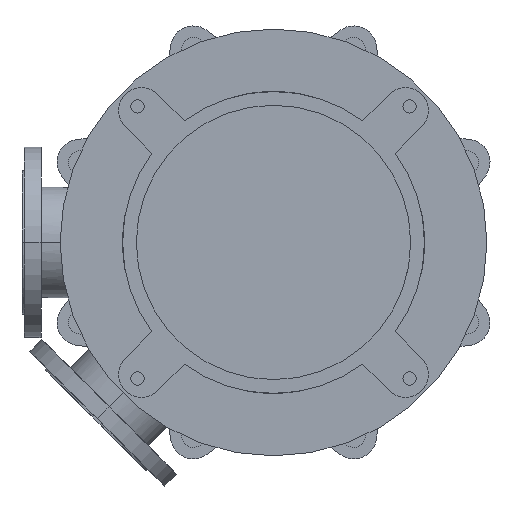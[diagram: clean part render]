
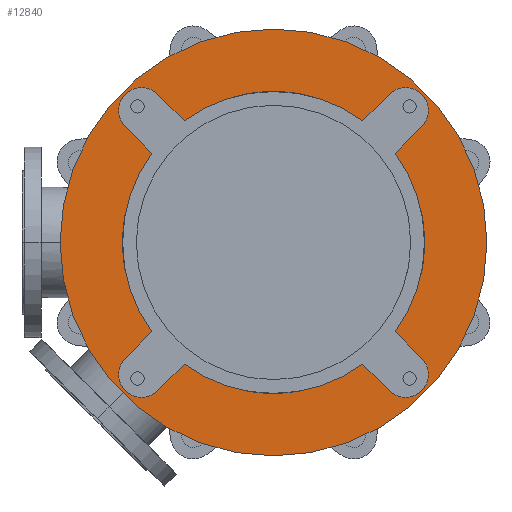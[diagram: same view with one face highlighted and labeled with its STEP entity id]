
A CAD part, front view. The second image highlights one B-rep face of the part: STEP entity #12840.
In plain terms, the highlighted planar face has unit normal (0, -1, 0).
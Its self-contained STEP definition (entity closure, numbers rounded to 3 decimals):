
#2490=CARTESIAN_POINT('',(0.,-25.,0.));
#2491=DIRECTION('',(0.,1.,0.));
#2492=DIRECTION('',(0.592,0.,-0.806));
#2493=AXIS2_PLACEMENT_3D('',#2490,#2491,#2492);
#2508=CARTESIAN_POINT('',(0.,-25.,0.));
#2509=DIRECTION('',(0.,1.,0.));
#2510=DIRECTION('',(0.806,0.,0.592));
#2511=AXIS2_PLACEMENT_3D('',#2508,#2509,#2510);
#2535=CARTESIAN_POINT('',(0.,-25.,0.));
#2536=DIRECTION('',(0.,1.,0.));
#2537=DIRECTION('',(-0.806,0.,-0.592));
#2538=AXIS2_PLACEMENT_3D('',#2535,#2536,#2537);
#2544=CARTESIAN_POINT('',(0.,-25.,0.));
#2545=DIRECTION('',(0.,1.,0.));
#2546=DIRECTION('',(-0.592,0.,0.806));
#2547=AXIS2_PLACEMENT_3D('',#2544,#2545,#2546);
#2722=CARTESIAN_POINT('',(0.,-25.,0.));
#2723=DIRECTION('',(0.,-1.,0.));
#2724=DIRECTION('',(-1.,0.,0.));
#2725=AXIS2_PLACEMENT_3D('',#2722,#2723,#2724);
#2727=CARTESIAN_POINT('',(0.,-25.,0.));
#2728=DIRECTION('',(0.,1.,0.));
#2729=DIRECTION('',(-1.,0.,0.));
#2730=AXIS2_PLACEMENT_3D('',#2727,#2728,#2729);
#2732=CARTESIAN_POINT('',(-173.241,-25.,173.241));
#2733=DIRECTION('',(0.,-1.,0.));
#2734=DIRECTION('',(0.707,0.,0.707));
#2735=AXIS2_PLACEMENT_3D('',#2732,#2733,#2734);
#2737=DIRECTION('',(0.707,0.,-0.707));
#2738=VECTOR('',#2737,49.286);
#2739=CARTESIAN_POINT('',(-194.454,-25.,152.028));
#2740=LINE('',#2739,#2738);
#2741=DIRECTION('',(-0.707,0.,-0.707));
#2742=VECTOR('',#2741,49.286);
#2743=CARTESIAN_POINT('',(-159.604,-25.,-117.178));
#2744=LINE('',#2743,#2742);
#2745=CARTESIAN_POINT('',(-173.241,-25.,-173.241));
#2746=DIRECTION('',(0.,-1.,0.));
#2747=DIRECTION('',(-0.707,0.,0.707));
#2748=AXIS2_PLACEMENT_3D('',#2745,#2746,#2747);
#2750=DIRECTION('',(0.707,0.,0.707));
#2751=VECTOR('',#2750,49.286);
#2752=CARTESIAN_POINT('',(-152.028,-25.,-194.454));
#2753=LINE('',#2752,#2751);
#2754=DIRECTION('',(0.707,0.,-0.707));
#2755=VECTOR('',#2754,49.286);
#2756=CARTESIAN_POINT('',(117.178,-25.,-159.604));
#2757=LINE('',#2756,#2755);
#2758=CARTESIAN_POINT('',(173.241,-25.,-173.241));
#2759=DIRECTION('',(0.,-1.,0.));
#2760=DIRECTION('',(-0.707,0.,-0.707));
#2761=AXIS2_PLACEMENT_3D('',#2758,#2759,#2760);
#2763=DIRECTION('',(-0.707,0.,0.707));
#2764=VECTOR('',#2763,49.286);
#2765=CARTESIAN_POINT('',(194.454,-25.,-152.028));
#2766=LINE('',#2765,#2764);
#2767=DIRECTION('',(0.707,0.,0.707));
#2768=VECTOR('',#2767,49.286);
#2769=CARTESIAN_POINT('',(159.604,-25.,117.178));
#2770=LINE('',#2769,#2768);
#2771=CARTESIAN_POINT('',(173.241,-25.,173.241));
#2772=DIRECTION('',(0.,-1.,0.));
#2773=DIRECTION('',(0.707,0.,-0.707));
#2774=AXIS2_PLACEMENT_3D('',#2771,#2772,#2773);
#2776=DIRECTION('',(-0.707,0.,-0.707));
#2777=VECTOR('',#2776,49.286);
#2778=CARTESIAN_POINT('',(152.028,-25.,194.454));
#2779=LINE('',#2778,#2777);
#2780=DIRECTION('',(-0.707,0.,0.707));
#2781=VECTOR('',#2780,49.286);
#2782=CARTESIAN_POINT('',(-117.178,-25.,159.604));
#2783=LINE('',#2782,#2781);
#8367=CARTESIAN_POINT('',(-280.,-25.,0.));
#8368=CARTESIAN_POINT('',(280.,-25.,0.));
#8369=VERTEX_POINT('',#8367);
#8370=VERTEX_POINT('',#8368);
#8391=CARTESIAN_POINT('',(-194.454,-25.,-152.028));
#8392=CARTESIAN_POINT('',(-152.028,-25.,-194.454));
#8393=VERTEX_POINT('',#8391);
#8394=VERTEX_POINT('',#8392);
#8395=CARTESIAN_POINT('',(-117.178,-25.,-159.604));
#8396=VERTEX_POINT('',#8395);
#8397=CARTESIAN_POINT('',(-159.604,-25.,-117.178));
#8398=VERTEX_POINT('',#8397);
#8407=CARTESIAN_POINT('',(152.028,-25.,-194.454));
#8408=CARTESIAN_POINT('',(194.454,-25.,-152.028));
#8409=VERTEX_POINT('',#8407);
#8410=VERTEX_POINT('',#8408);
#8411=CARTESIAN_POINT('',(159.604,-25.,-117.178));
#8412=VERTEX_POINT('',#8411);
#8413=CARTESIAN_POINT('',(117.178,-25.,-159.604));
#8414=VERTEX_POINT('',#8413);
#8423=CARTESIAN_POINT('',(194.454,-25.,152.028));
#8424=CARTESIAN_POINT('',(152.028,-25.,194.454));
#8425=VERTEX_POINT('',#8423);
#8426=VERTEX_POINT('',#8424);
#8427=CARTESIAN_POINT('',(117.178,-25.,159.604));
#8428=VERTEX_POINT('',#8427);
#8429=CARTESIAN_POINT('',(159.604,-25.,117.178));
#8430=VERTEX_POINT('',#8429);
#8439=CARTESIAN_POINT('',(-152.028,-25.,194.454));
#8440=CARTESIAN_POINT('',(-194.454,-25.,152.028));
#8441=VERTEX_POINT('',#8439);
#8442=VERTEX_POINT('',#8440);
#8443=CARTESIAN_POINT('',(-159.604,-25.,117.178));
#8444=VERTEX_POINT('',#8443);
#8445=CARTESIAN_POINT('',(-117.178,-25.,159.604));
#8446=VERTEX_POINT('',#8445);
#12800=CARTESIAN_POINT('',(0.,-25.,0.));
#12801=DIRECTION('',(0.,-1.,0.));
#12802=DIRECTION('',(-1.,0.,0.));
#12803=AXIS2_PLACEMENT_3D('',#12800,#12801,#12802);
#12804=PLANE('',#12803);
#12806=ORIENTED_EDGE('',*,*,#12805,.F.);
#12808=ORIENTED_EDGE('',*,*,#12807,.T.);
#12809=EDGE_LOOP('',(#12806,#12808));
#12810=FACE_OUTER_BOUND('',#12809,.F.);
#12812=ORIENTED_EDGE('',*,*,#12811,.T.);
#12814=ORIENTED_EDGE('',*,*,#12813,.T.);
#12815=ORIENTED_EDGE('',*,*,#12753,.F.);
#12817=ORIENTED_EDGE('',*,*,#12816,.T.);
#12819=ORIENTED_EDGE('',*,*,#12818,.T.);
#12821=ORIENTED_EDGE('',*,*,#12820,.T.);
#12822=ORIENTED_EDGE('',*,*,#12706,.F.);
#12823=ORIENTED_EDGE('',*,*,#12790,.T.);
#12825=ORIENTED_EDGE('',*,*,#12824,.T.);
#12827=ORIENTED_EDGE('',*,*,#12826,.T.);
#12828=ORIENTED_EDGE('',*,*,#12727,.F.);
#12830=ORIENTED_EDGE('',*,*,#12829,.T.);
#12832=ORIENTED_EDGE('',*,*,#12831,.T.);
#12834=ORIENTED_EDGE('',*,*,#12833,.T.);
#12835=ORIENTED_EDGE('',*,*,#12771,.F.);
#12837=ORIENTED_EDGE('',*,*,#12836,.T.);
#12838=EDGE_LOOP('',(#12812,#12814,#12815,#12817,#12819,#12821,#12822,#12823,
#12825,#12827,#12828,#12830,#12832,#12834,#12835,#12837));
#12839=FACE_BOUND('',#12838,.F.);
#12840=ADVANCED_FACE('',(#12810,#12839),#12804,.T.);
#2494=CIRCLE('',#2493,198.);
#2512=CIRCLE('',#2511,198.);
#2539=CIRCLE('',#2538,198.);
#2548=CIRCLE('',#2547,198.);
#2726=CIRCLE('',#2725,280.);
#2731=CIRCLE('',#2730,280.);
#2736=CIRCLE('',#2735,30.);
#2749=CIRCLE('',#2748,30.);
#2762=CIRCLE('',#2761,30.);
#2775=CIRCLE('',#2774,30.);
#12706=EDGE_CURVE('',#8414,#8396,#2494,.T.);
#12727=EDGE_CURVE('',#8430,#8412,#2512,.T.);
#12753=EDGE_CURVE('',#8398,#8444,#2539,.T.);
#12771=EDGE_CURVE('',#8446,#8428,#2548,.T.);
#12790=EDGE_CURVE('',#8414,#8409,#2757,.T.);
#12805=EDGE_CURVE('',#8369,#8370,#2726,.T.);
#12807=EDGE_CURVE('',#8369,#8370,#2731,.T.);
#12811=EDGE_CURVE('',#8441,#8442,#2736,.T.);
#12813=EDGE_CURVE('',#8442,#8444,#2740,.T.);
#12816=EDGE_CURVE('',#8398,#8393,#2744,.T.);
#12818=EDGE_CURVE('',#8393,#8394,#2749,.T.);
#12820=EDGE_CURVE('',#8394,#8396,#2753,.T.);
#12824=EDGE_CURVE('',#8409,#8410,#2762,.T.);
#12826=EDGE_CURVE('',#8410,#8412,#2766,.T.);
#12829=EDGE_CURVE('',#8430,#8425,#2770,.T.);
#12831=EDGE_CURVE('',#8425,#8426,#2775,.T.);
#12833=EDGE_CURVE('',#8426,#8428,#2779,.T.);
#12836=EDGE_CURVE('',#8446,#8441,#2783,.T.);
